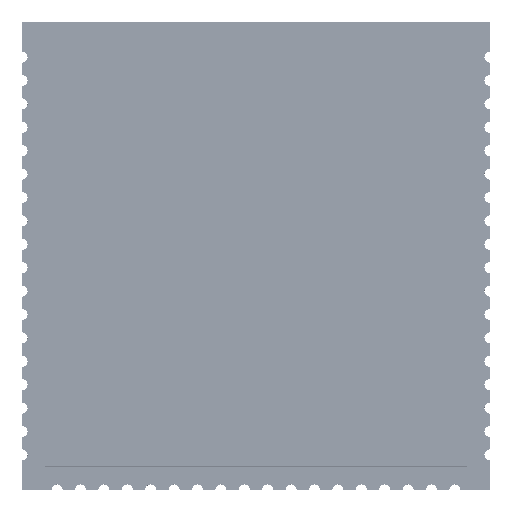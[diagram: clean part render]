
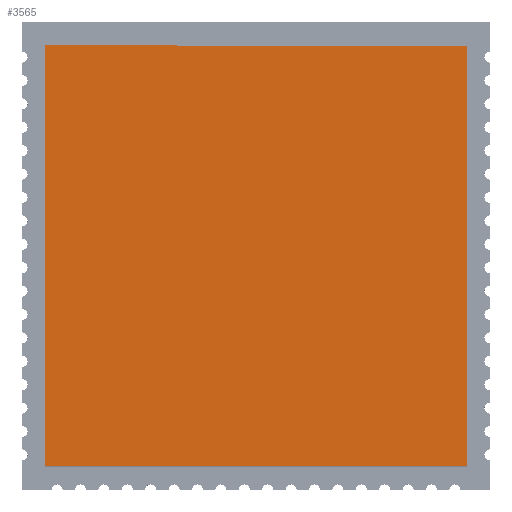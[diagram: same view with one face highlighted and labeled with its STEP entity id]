
A CAD part, top view. The second image highlights one B-rep face of the part: STEP entity #3565.
In plain terms, the highlighted free-form (B-spline) face has degree [1, 1] with [2, 2] control points.
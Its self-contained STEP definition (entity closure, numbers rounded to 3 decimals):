
#3565=ADVANCED_FACE('',(#6154),#91365,.T.);
#6154=FACE_OUTER_BOUND('',#8743,.T.);
#8743=EDGE_LOOP('',(#11474,#11475,#11476,#11477));
#11474=ORIENTED_EDGE('',*,*,#60131,.F.);
#11475=ORIENTED_EDGE('',*,*,#60134,.F.);
#11476=ORIENTED_EDGE('',*,*,#60136,.F.);
#11477=ORIENTED_EDGE('',*,*,#60127,.F.);
#25362=PCURVE('',#91360,#39268);
#25366=PCURVE('',#91361,#39272);
#25370=PCURVE('',#91362,#39276);
#25374=PCURVE('',#91363,#39280);
#25380=PCURVE('',#91365,#39286);
#25381=PCURVE('',#91365,#39287);
#25382=PCURVE('',#91365,#39288);
#25383=PCURVE('',#91365,#39289);
#39268=DEFINITIONAL_REPRESENTATION('',(#67083),#210359);
#39272=DEFINITIONAL_REPRESENTATION('',(#67091),#210359);
#39276=DEFINITIONAL_REPRESENTATION('',(#67098),#210359);
#39280=DEFINITIONAL_REPRESENTATION('',(#67104),#210359);
#39286=DEFINITIONAL_REPRESENTATION('',(#67110),#210359);
#39287=DEFINITIONAL_REPRESENTATION('',(#67111),#210359);
#39288=DEFINITIONAL_REPRESENTATION('',(#67112),#210359);
#39289=DEFINITIONAL_REPRESENTATION('',(#67113),#210359);
#53174=SURFACE_CURVE('',#67082,(#25362,#25383),.PCURVE_S1.);
#53178=SURFACE_CURVE('',#67090,(#25366,#25380),.PCURVE_S1.);
#53181=SURFACE_CURVE('',#67097,(#25370,#25381),.PCURVE_S1.);
#53183=SURFACE_CURVE('',#67103,(#25374,#25382),.PCURVE_S1.);
#60127=EDGE_CURVE('',#86795,#86794,#53174,.T.);
#60131=EDGE_CURVE('',#86797,#86795,#53178,.T.);
#60134=EDGE_CURVE('',#86799,#86797,#53181,.T.);
#60136=EDGE_CURVE('',#86794,#86799,#53183,.T.);
#67082=B_SPLINE_CURVE_WITH_KNOTS('',1,(#97478,#97479),.UNSPECIFIED.,.F.,
 .F.,(2,2),(-22.86,0.),.UNSPECIFIED.);
#67083=B_SPLINE_CURVE_WITH_KNOTS('',1,(#97480,#97481),.UNSPECIFIED.,.F.,
 .F.,(2,2),(-22.86,0.),.UNSPECIFIED.);
#67090=B_SPLINE_CURVE_WITH_KNOTS('',1,(#97494,#97495),.UNSPECIFIED.,.F.,
 .F.,(2,2),(-22.86,0.),.UNSPECIFIED.);
#67091=B_SPLINE_CURVE_WITH_KNOTS('',1,(#97496,#97497),.UNSPECIFIED.,.F.,
 .F.,(2,2),(-22.86,0.),.UNSPECIFIED.);
#67097=B_SPLINE_CURVE_WITH_KNOTS('',1,(#97508,#97509),.UNSPECIFIED.,.F.,
 .F.,(2,2),(-22.83,0.),.UNSPECIFIED.);
#67098=B_SPLINE_CURVE_WITH_KNOTS('',1,(#97510,#97511),.UNSPECIFIED.,.F.,
 .F.,(2,2),(-22.83,0.),.UNSPECIFIED.);
#67103=B_SPLINE_CURVE_WITH_KNOTS('',1,(#97520,#97521),.UNSPECIFIED.,.F.,
 .F.,(2,2),(-22.86,0.),.UNSPECIFIED.);
#67104=B_SPLINE_CURVE_WITH_KNOTS('',1,(#97522,#97523),.UNSPECIFIED.,.F.,
 .F.,(2,2),(-22.86,0.),.UNSPECIFIED.);
#67110=B_SPLINE_CURVE_WITH_KNOTS('',1,(#97534,#97535),.UNSPECIFIED.,.F.,
 .F.,(2,2),(-22.86,0.),.UNSPECIFIED.);
#67111=B_SPLINE_CURVE_WITH_KNOTS('',1,(#97536,#97537),.UNSPECIFIED.,.F.,
 .F.,(2,2),(-22.83,0.),.UNSPECIFIED.);
#67112=B_SPLINE_CURVE_WITH_KNOTS('',1,(#97538,#97539),.UNSPECIFIED.,.F.,
 .F.,(2,2),(-22.86,0.),.UNSPECIFIED.);
#67113=B_SPLINE_CURVE_WITH_KNOTS('',1,(#97540,#97541),.UNSPECIFIED.,.F.,
 .F.,(2,2),(-22.86,0.),.UNSPECIFIED.);
#86794=VERTEX_POINT('',#97463);
#86795=VERTEX_POINT('',#97464);
#86797=VERTEX_POINT('',#97466);
#86799=VERTEX_POINT('',#97468);
#91360=B_SPLINE_SURFACE_WITH_KNOTS('',1,1,((#97438,#97439),(#97440,#97441)),
 .UNSPECIFIED.,.F.,.F.,.F.,(2,2),(2,2),(-3.52,0.32),(-2.286,
25.146),.UNSPECIFIED.);
#91361=B_SPLINE_SURFACE_WITH_KNOTS('',1,1,((#97442,#97443),(#97444,#97445)),
 .UNSPECIFIED.,.F.,.F.,.F.,(2,2),(2,2),(-3.52,0.32),(-2.286,
25.146),.UNSPECIFIED.);
#91362=B_SPLINE_SURFACE_WITH_KNOTS('',1,1,((#97446,#97447),(#97448,#97449)),
 .UNSPECIFIED.,.F.,.F.,.F.,(2,2),(2,2),(-3.52,0.32),(-2.283,
25.113),.UNSPECIFIED.);
#91363=B_SPLINE_SURFACE_WITH_KNOTS('',1,1,((#97450,#97451),(#97452,#97453)),
 .UNSPECIFIED.,.F.,.F.,.F.,(2,2),(2,2),(-3.52,0.32),(-2.286,
25.146),.UNSPECIFIED.);
#91365=B_SPLINE_SURFACE_WITH_KNOTS('',1,1,((#97458,#97459),(#97460,#97461)),
 .UNSPECIFIED.,.F.,.F.,.F.,(2,2),(2,2),(-25.146,2.286),(-25.146,
2.286),.UNSPECIFIED.);
#97438=CARTESIAN_POINT('',(-11.43,13.716,3.52));
#97439=CARTESIAN_POINT('',(-11.43,-13.716,3.52));
#97440=CARTESIAN_POINT('',(-11.43,13.716,-0.32));
#97441=CARTESIAN_POINT('',(-11.43,-13.716,-0.32));
#97442=CARTESIAN_POINT('',(-13.716,-11.43,3.52));
#97443=CARTESIAN_POINT('',(13.716,-11.43,3.52));
#97444=CARTESIAN_POINT('',(-13.716,-11.43,-0.32));
#97445=CARTESIAN_POINT('',(13.716,-11.43,-0.32));
#97446=CARTESIAN_POINT('',(11.43,-13.713,3.52));
#97447=CARTESIAN_POINT('',(11.43,13.683,3.52));
#97448=CARTESIAN_POINT('',(11.43,-13.713,-0.32));
#97449=CARTESIAN_POINT('',(11.43,13.683,-0.32));
#97450=CARTESIAN_POINT('',(13.716,11.397,3.52));
#97451=CARTESIAN_POINT('',(-13.716,11.433,3.52));
#97452=CARTESIAN_POINT('',(13.716,11.397,-0.32));
#97453=CARTESIAN_POINT('',(-13.716,11.433,-0.32));
#97458=CARTESIAN_POINT('',(13.716,-13.716,3.2));
#97459=CARTESIAN_POINT('',(-13.716,-13.716,3.2));
#97460=CARTESIAN_POINT('',(13.716,13.716,3.2));
#97461=CARTESIAN_POINT('',(-13.716,13.716,3.2));
#97463=CARTESIAN_POINT('',(-11.43,11.43,3.2));
#97464=CARTESIAN_POINT('',(-11.43,-11.43,3.2));
#97466=CARTESIAN_POINT('',(11.43,-11.43,3.2));
#97468=CARTESIAN_POINT('',(11.43,11.4,3.2));
#97478=CARTESIAN_POINT('',(-11.43,-11.43,3.2));
#97479=CARTESIAN_POINT('',(-11.43,11.43,3.2));
#97480=CARTESIAN_POINT('',(-3.2,22.86));
#97481=CARTESIAN_POINT('',(-3.2,0.));
#97494=CARTESIAN_POINT('',(11.43,-11.43,3.2));
#97495=CARTESIAN_POINT('',(-11.43,-11.43,3.2));
#97496=CARTESIAN_POINT('',(-3.2,22.86));
#97497=CARTESIAN_POINT('',(-3.2,0.));
#97508=CARTESIAN_POINT('',(11.43,11.4,3.2));
#97509=CARTESIAN_POINT('',(11.43,-11.43,3.2));
#97510=CARTESIAN_POINT('',(-3.2,22.83));
#97511=CARTESIAN_POINT('',(-3.2,0.));
#97520=CARTESIAN_POINT('',(-11.43,11.43,3.2));
#97521=CARTESIAN_POINT('',(11.43,11.4,3.2));
#97522=CARTESIAN_POINT('',(-3.2,22.86));
#97523=CARTESIAN_POINT('',(-3.2,0.));
#97534=CARTESIAN_POINT('',(-22.86,-22.86));
#97535=CARTESIAN_POINT('',(-22.86,0.));
#97536=CARTESIAN_POINT('',(-0.03,-22.86));
#97537=CARTESIAN_POINT('',(-22.86,-22.86));
#97538=CARTESIAN_POINT('',(0.,0.));
#97539=CARTESIAN_POINT('',(-0.03,-22.86));
#97540=CARTESIAN_POINT('',(-22.86,0.));
#97541=CARTESIAN_POINT('',(0.,0.));
#210359=(
GEOMETRIC_REPRESENTATION_CONTEXT(2)
PARAMETRIC_REPRESENTATION_CONTEXT()
REPRESENTATION_CONTEXT('pspace','')
);
